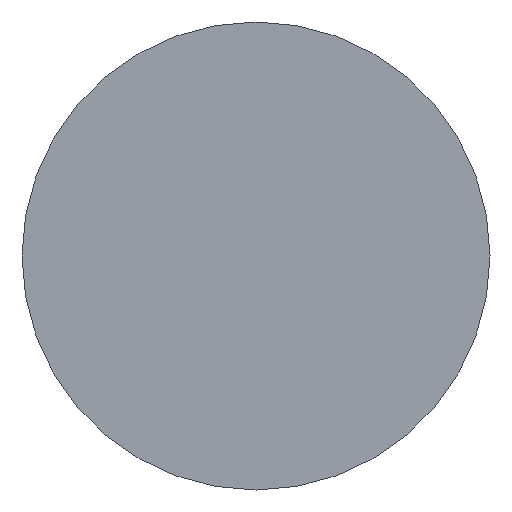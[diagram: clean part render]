
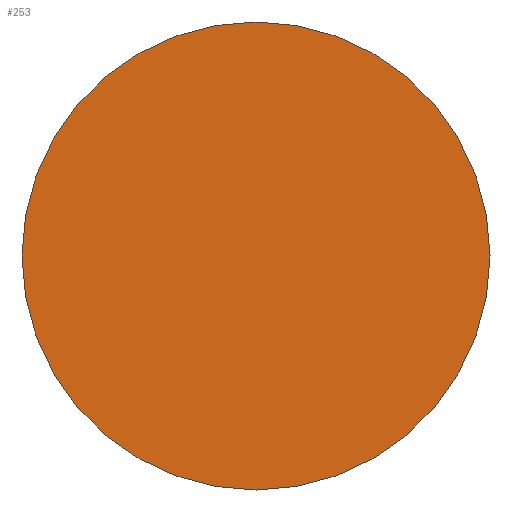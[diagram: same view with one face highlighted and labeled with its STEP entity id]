
A CAD part, left-side view. The second image highlights one B-rep face of the part: STEP entity #253.
In plain terms, the highlighted planar face has unit normal (-1, 0, 0).
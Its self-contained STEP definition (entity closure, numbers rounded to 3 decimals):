
#165 = CYLINDRICAL_SURFACE('',#166,6.5);
#166 = AXIS2_PLACEMENT_3D('',#167,#168,#169);
#167 = CARTESIAN_POINT('',(37.6,20.,14.25));
#168 = DIRECTION('',(1.,0.,0.));
#169 = DIRECTION('',(-0.,1.,0.));
#203 = VERTEX_POINT('',#204);
#204 = CARTESIAN_POINT('',(37.25,26.5,14.25));
#225 = EDGE_CURVE('',#203,#203,#226,.T.);
#226 = SURFACE_CURVE('',#227,(#232,#239),.PCURVE_S1.);
#227 = CIRCLE('',#228,6.5);
#228 = AXIS2_PLACEMENT_3D('',#229,#230,#231);
#229 = CARTESIAN_POINT('',(37.25,20.,14.25));
#230 = DIRECTION('',(1.,0.,0.));
#231 = DIRECTION('',(-0.,1.,0.));
#232 = PCURVE('',#165,#233);
#233 = DEFINITIONAL_REPRESENTATION('',(#234),#238);
#234 = LINE('',#235,#236);
#235 = CARTESIAN_POINT('',(0.,-0.35));
#236 = VECTOR('',#237,1.);
#237 = DIRECTION('',(1.,0.));
#238 = ( GEOMETRIC_REPRESENTATION_CONTEXT(2) 
PARAMETRIC_REPRESENTATION_CONTEXT() REPRESENTATION_CONTEXT('2D SPACE',''
  ) );
#239 = PCURVE('',#240,#245);
#240 = PLANE('',#241);
#241 = AXIS2_PLACEMENT_3D('',#242,#243,#244);
#242 = CARTESIAN_POINT('',(37.25,20.,14.25));
#243 = DIRECTION('',(1.,0.,0.));
#244 = DIRECTION('',(-0.,0.,1.));
#245 = DEFINITIONAL_REPRESENTATION('',(#246),#250);
#246 = CIRCLE('',#247,6.5);
#247 = AXIS2_PLACEMENT_2D('',#248,#249);
#248 = CARTESIAN_POINT('',(0.,0.));
#249 = DIRECTION('',(0.,-1.));
#250 = ( GEOMETRIC_REPRESENTATION_CONTEXT(2) 
PARAMETRIC_REPRESENTATION_CONTEXT() REPRESENTATION_CONTEXT('2D SPACE',''
  ) );
#253 = ADVANCED_FACE('',(#254),#240,.F.);
#254 = FACE_BOUND('',#255,.F.);
#255 = EDGE_LOOP('',(#256));
#256 = ORIENTED_EDGE('',*,*,#225,.T.);
